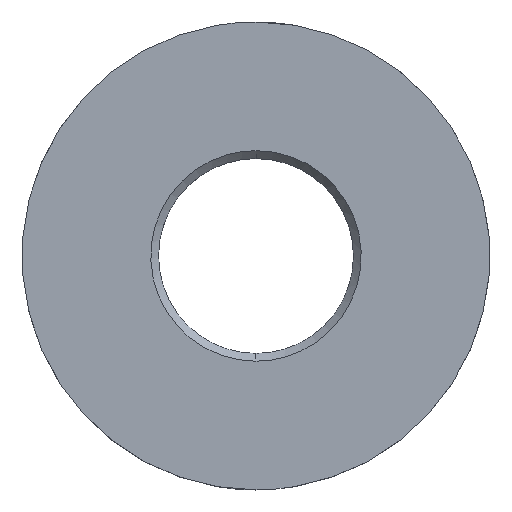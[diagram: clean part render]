
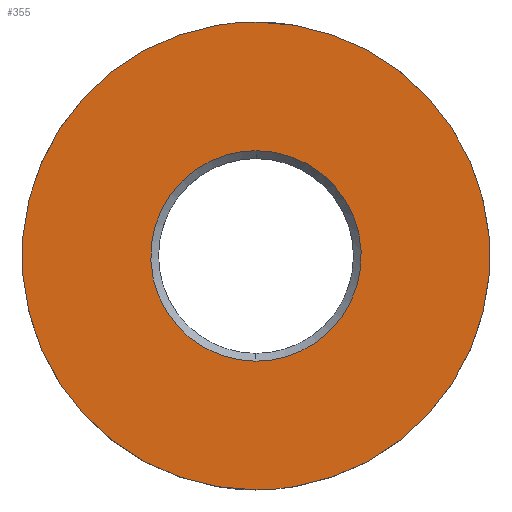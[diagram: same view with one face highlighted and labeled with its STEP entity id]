
A CAD part, top view. The second image highlights one B-rep face of the part: STEP entity #355.
In plain terms, the highlighted planar face has unit normal (0, 0, 1).
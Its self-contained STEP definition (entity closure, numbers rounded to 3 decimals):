
#14 = CARTESIAN_POINT ( 'NONE',  ( -9.425, 9.885, 4. ) ) ;
#25 = CARTESIAN_POINT ( 'NONE',  ( -2.121, -5.4, 4. ) ) ;
#26 = CARTESIAN_POINT ( 'NONE',  ( -5.863, -2.545, 4. ) ) ;
#30 = DIRECTION ( 'NONE',  ( 0., 0., 1. ) ) ;
#39 = FACE_BOUND ( 'NONE', #174, .T. ) ;
#41 = CARTESIAN_POINT ( 'NONE',  ( -13.03, -5.656, 4. ) ) ;
#52 = CARTESIAN_POINT ( 'NONE',  ( 4.241, -4.448, 4. ) ) ;
#57 = CARTESIAN_POINT ( 'NONE',  ( 5.863, 2.545, 4. ) ) ;
#58 = B_SPLINE_CURVE_WITH_KNOTS ( 'NONE', 8,
 ( #168, #232, #278, #41, #79, #300, #14, #305, #109 ),
 .UNSPECIFIED., .F., .F.,
 ( 9, 9 ),
 ( 0., 0.038 ),
 .UNSPECIFIED. ) ;
#67 = DIRECTION ( 'NONE',  ( 0., 1., 0. ) ) ;
#77 = CARTESIAN_POINT ( 'NONE',  ( 13.03, 5.656, 4. ) ) ;
#79 = CARTESIAN_POINT ( 'NONE',  ( -14.421, -0.001, 4. ) ) ;
#84 = CARTESIAN_POINT ( 'NONE',  ( 0., -5.4, 4. ) ) ;
#85 = CARTESIAN_POINT ( 'NONE',  ( 0., -5.4, 4. ) ) ;
#109 = CARTESIAN_POINT ( 'NONE',  ( 0., 12., 4. ) ) ;
#125 = CARTESIAN_POINT ( 'NONE',  ( 12.48, -12.48, 4. ) ) ;
#132 = AXIS2_PLACEMENT_3D ( 'NONE', #125, #30, #67 ) ;
#141 = CARTESIAN_POINT ( 'NONE',  ( 4.712, 12., 4. ) ) ;
#145 = CARTESIAN_POINT ( 'NONE',  ( 9.425, -9.885, 4. ) ) ;
#160 = EDGE_CURVE ( 'NONE', #260, #219, #194, .T. ) ;
#168 = CARTESIAN_POINT ( 'NONE',  ( 0., -12., 4. ) ) ;
#174 = EDGE_LOOP ( 'NONE', ( #292, #277 ) ) ;
#175 = CARTESIAN_POINT ( 'NONE',  ( 13.03, -5.658, 4. ) ) ;
#180 = CARTESIAN_POINT ( 'NONE',  ( 2.121, -5.4, 4. ) ) ;
#181 = B_SPLINE_CURVE_WITH_KNOTS ( 'NONE', 8,
 ( #408, #25, #314, #26, #288, #202, #323, #193, #255 ),
 .UNSPECIFIED., .F., .F.,
 ( 9, 9 ),
 ( 0., 0.017 ),
 .UNSPECIFIED. ) ;
#182 = CARTESIAN_POINT ( 'NONE',  ( 4.241, 4.448, 4. ) ) ;
#193 = CARTESIAN_POINT ( 'NONE',  ( -2.121, 5.4, 4. ) ) ;
#194 = B_SPLINE_CURVE_WITH_KNOTS ( 'NONE', 8,
 ( #373, #337, #182, #57, #368, #283, #52, #180, #85 ),
 .UNSPECIFIED., .F., .F.,
 ( 9, 9 ),
 ( 0., 0.017 ),
 .UNSPECIFIED. ) ;
#202 = CARTESIAN_POINT ( 'NONE',  ( -5.863, 2.546, 4. ) ) ;
#208 = CARTESIAN_POINT ( 'NONE',  ( 14.421, 0.001, 4. ) ) ;
#218 = FACE_OUTER_BOUND ( 'NONE', #290, .T. ) ;
#219 = VERTEX_POINT ( 'NONE', #84 ) ;
#222 = EDGE_CURVE ( 'NONE', #219, #260, #181, .T. ) ;
#232 = CARTESIAN_POINT ( 'NONE',  ( -4.712, -12., 4. ) ) ;
#255 = CARTESIAN_POINT ( 'NONE',  ( 0., 5.4, 4. ) ) ;
#260 = VERTEX_POINT ( 'NONE', #352 ) ;
#265 = ORIENTED_EDGE ( 'NONE', *, *, #315, .F. ) ;
#267 = PLANE ( 'NONE',  #132 ) ;
#274 = VERTEX_POINT ( 'NONE', #396 ) ;
#275 = CARTESIAN_POINT ( 'NONE',  ( 0., -12., 4. ) ) ;
#277 = ORIENTED_EDGE ( 'NONE', *, *, #160, .T. ) ;
#278 = CARTESIAN_POINT ( 'NONE',  ( -9.425, -9.885, 4. ) ) ;
#280 = EDGE_CURVE ( 'NONE', #296, #274, #58, .T. ) ;
#283 = CARTESIAN_POINT ( 'NONE',  ( 5.863, -2.546, 4. ) ) ;
#288 = CARTESIAN_POINT ( 'NONE',  ( -6.49, -0.001, 4. ) ) ;
#290 = EDGE_LOOP ( 'NONE', ( #265, #389 ) ) ;
#292 = ORIENTED_EDGE ( 'NONE', *, *, #222, .T. ) ;
#296 = VERTEX_POINT ( 'NONE', #393 ) ;
#300 = CARTESIAN_POINT ( 'NONE',  ( -13.03, 5.658, 4. ) ) ;
#305 = CARTESIAN_POINT ( 'NONE',  ( -4.712, 12., 4. ) ) ;
#314 = CARTESIAN_POINT ( 'NONE',  ( -4.241, -4.448, 4. ) ) ;
#315 = EDGE_CURVE ( 'NONE', #274, #296, #377, .T. ) ;
#323 = CARTESIAN_POINT ( 'NONE',  ( -4.241, 4.448, 4. ) ) ;
#331 = CARTESIAN_POINT ( 'NONE',  ( 0., 12., 4. ) ) ;
#337 = CARTESIAN_POINT ( 'NONE',  ( 2.121, 5.4, 4. ) ) ;
#352 = CARTESIAN_POINT ( 'NONE',  ( 0., 5.4, 4. ) ) ;
#355 = ADVANCED_FACE ( 'NONE', ( #39, #218 ), #267, .T. ) ;
#363 = CARTESIAN_POINT ( 'NONE',  ( 9.425, 9.885, 4. ) ) ;
#368 = CARTESIAN_POINT ( 'NONE',  ( 6.49, 0.001, 4. ) ) ;
#373 = CARTESIAN_POINT ( 'NONE',  ( 0., 5.4, 4. ) ) ;
#377 = B_SPLINE_CURVE_WITH_KNOTS ( 'NONE', 8,
 ( #331, #141, #363, #77, #208, #175, #145, #399, #275 ),
 .UNSPECIFIED., .F., .F.,
 ( 9, 9 ),
 ( 0., 0.038 ),
 .UNSPECIFIED. ) ;
#389 = ORIENTED_EDGE ( 'NONE', *, *, #280, .F. ) ;
#393 = CARTESIAN_POINT ( 'NONE',  ( 0., -12., 4. ) ) ;
#396 = CARTESIAN_POINT ( 'NONE',  ( 0., 12., 4. ) ) ;
#399 = CARTESIAN_POINT ( 'NONE',  ( 4.712, -12., 4. ) ) ;
#408 = CARTESIAN_POINT ( 'NONE',  ( 0., -5.4, 4. ) ) ;
